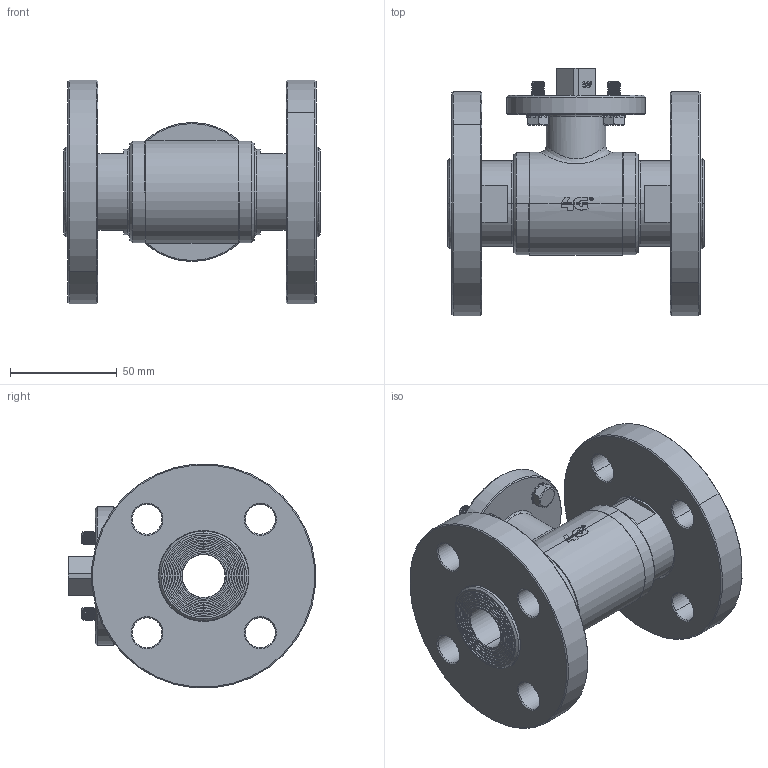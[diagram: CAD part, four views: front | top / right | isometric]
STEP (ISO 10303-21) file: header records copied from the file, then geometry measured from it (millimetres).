
FILE_DESCRIPTION((''),'2;1');
FILE_NAME('PARTE_VUOTA','2026-10-13T14:22:45',('tecnico2'),('CDM Tecnoconsulting'),'CREO PARAMETRIC BY PTC INC, 2024063','CREO PARAMETRIC BY PTC INC, 2024063','');
FILE_SCHEMA(('CONFIG_CONTROL_DESIGN','SHAPE_APPEARANCE_LAYERS_GROUPS'));
Products named in the file (1): PARTE_VUOTA
Bounding box: 120 x 115.55 x 104.6 mm (x, y, z)
Volume: 371939.1 mm3; surface area: 87709.7 mm2
Topology: 1 solids, 4 shells, 1405 faces, 3957 edges, 2504 vertices
Faces by surface type: plane 523, cylinder 363, cone 205, extrusion 109, bspline 101, torus 92, sphere 12
Entity records: 83019 total; most frequent: CARTESIAN_POINT 36589, ORIENTED_EDGE 7894, DIRECTION 6100, PRESENTATION_STYLE_ASSIGNMENT 3972, STYLED_ITEM 3948, CURVE_STYLE 3947, EDGE_CURVE 3947, VERTEX_POINT 2504
